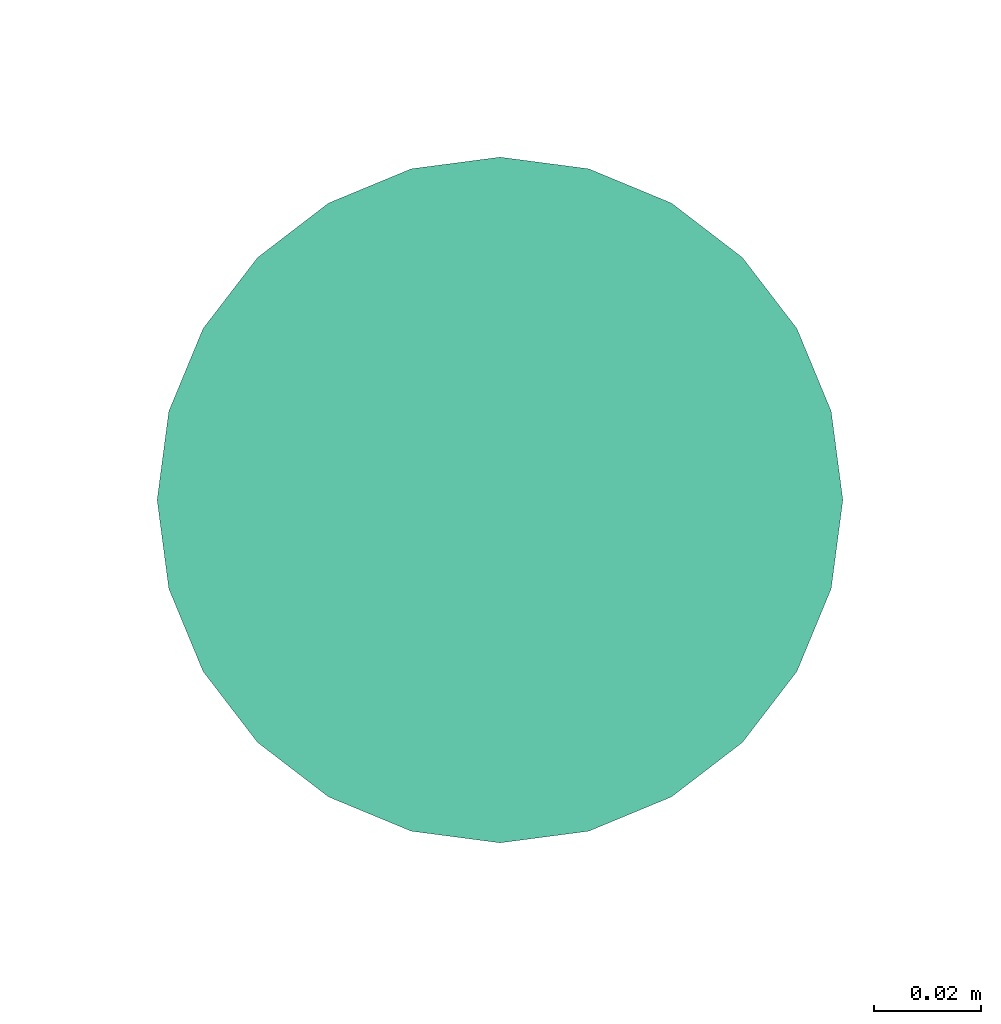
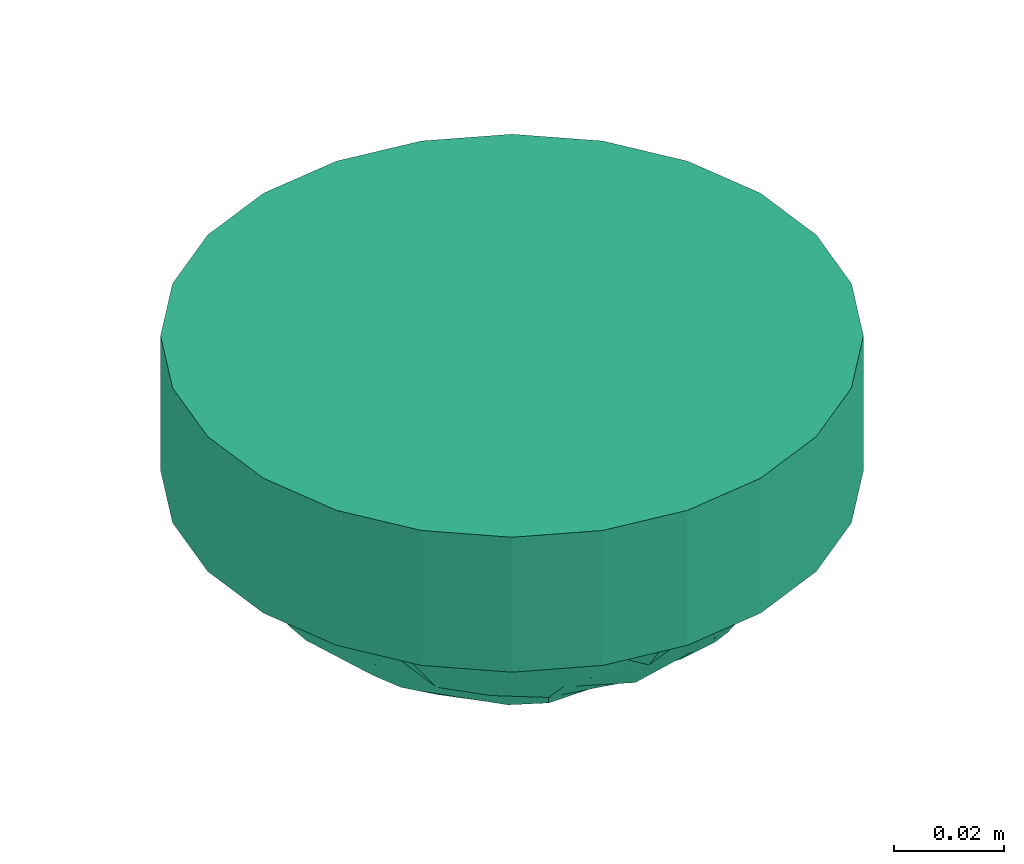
# One storey, part 150 of 153: 1 flow terminal.
"""IFC2X3 building model written with IfcOpenShell, lengths in metres."""

from ifc_helpers import new_model, entity, si_unit, converted_unit, derived_unit, direction, frame, origin, place, context, subcontext, project, spatial, faceted_brep, source, transform, mapped, type_object, type_shapes, element, save


model = new_model("IFC2X3")

# Units and contexts
model_context = context("Model", 3, precision=1e-05, world=origin(), true_north=direction((6.12303176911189e-17, 1.0)))
body_context = subcontext(model_context, "Body", "Model", "MODEL_VIEW")
ifc_project = project(units=[si_unit("LENGTHUNIT", "METRE"), si_unit("AREAUNIT", "SQUARE_METRE"), si_unit("VOLUMEUNIT", "CUBIC_METRE"), converted_unit("PLANEANGLEUNIT", "DEGREE", entity("IfcRatioMeasure", 0.0174532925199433), si_unit("PLANEANGLEUNIT", "RADIAN"), dimensions=[0, 0, 0, 0, 0, 0, 0]), si_unit("MASSUNIT", "GRAM", prefix="KILO"), derived_unit("MASSDENSITYUNIT", [(si_unit("MASSUNIT", "GRAM", prefix="KILO"), 1), (si_unit("LENGTHUNIT", "METRE"), -3)]), si_unit("TIMEUNIT", "SECOND"), si_unit("FREQUENCYUNIT", "HERTZ"), si_unit("THERMODYNAMICTEMPERATUREUNIT", "DEGREE_CELSIUS"), derived_unit("THERMALTRANSMITTANCEUNIT", [(si_unit("MASSUNIT", "GRAM", prefix="KILO"), 1), (si_unit("THERMODYNAMICTEMPERATUREUNIT", "KELVIN"), -1), (si_unit("TIMEUNIT", "SECOND"), -3)]), derived_unit("VOLUMETRICFLOWRATEUNIT", [(si_unit("LENGTHUNIT", "METRE"), 3), (si_unit("TIMEUNIT", "SECOND"), -1)]), si_unit("ELECTRICCURRENTUNIT", "AMPERE"), si_unit("ELECTRICVOLTAGEUNIT", "VOLT"), si_unit("POWERUNIT", "WATT"), si_unit("FORCEUNIT", "NEWTON"), si_unit("ILLUMINANCEUNIT", "LUX"), si_unit("LUMINOUSFLUXUNIT", "LUMEN"), si_unit("LUMINOUSINTENSITYUNIT", "CANDELA"), derived_unit("USERDEFINED", [(si_unit("MASSUNIT", "GRAM", prefix="KILO"), -1), (si_unit("LENGTHUNIT", "METRE"), -2), (si_unit("TIMEUNIT", "SECOND"), 3), (si_unit("LUMINOUSFLUXUNIT", "LUMEN"), 1)]), derived_unit("LINEARVELOCITYUNIT", [(si_unit("LENGTHUNIT", "METRE"), 1), (si_unit("TIMEUNIT", "SECOND"), -1)]), si_unit("PRESSUREUNIT", "PASCAL"), derived_unit("USERDEFINED", [(si_unit("LENGTHUNIT", "METRE"), -2), (si_unit("MASSUNIT", "GRAM", prefix="KILO"), 1), (si_unit("TIMEUNIT", "SECOND"), -2)])], contexts=[model_context])

# Site, building, storey
site_placement = place(None, origin())
site = spatial("IfcSite", under=ifc_project, at=site_placement, Name="Default", CompositionType="ELEMENT")
building_placement = place(site_placement, origin())
building = spatial("IfcBuilding", under=site, at=building_placement, CompositionType="ELEMENT")
storey_placement = place(building_placement, frame((0.0, 0.0, -4.62)))
storey = spatial("IfcBuildingStorey", under=building, at=storey_placement, Name="S02", CompositionType="ELEMENT", Elevation=-4.62)

# Flow terminal
light_fixture_type = type_object("IfcLightFixtureType", Name="Détecteur 360°", PredefinedType="NOTDEFINED")
shared_shape = source(origin(), body_context, "Body", "Brep", [
    faceted_brep([(-0.0175153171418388, 0.0435914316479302, 0.0478512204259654), (0.0, 0.034524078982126, 0.0563702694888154), (0.0, 0.0397165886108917, 0.0531256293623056), (0.0, -0.00603476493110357, 0.0659648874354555), (0.0, 0.0, 0.0669999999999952), (-0.0194029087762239, 0.000878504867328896, 0.0644483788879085), (-0.0269980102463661, 0.0195753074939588, 0.0584711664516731), (-0.0366619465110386, 0.0127227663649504, 0.0549213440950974), (-0.0174057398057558, 0.0159851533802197, 0.0630502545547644), (-0.0276843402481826, 0.0401006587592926, 0.0459804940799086), (-0.0359767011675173, 0.0348394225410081, 0.0444249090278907), (-0.0202403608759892, 0.0335607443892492, 0.054639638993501), (-0.0256912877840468, 0.0533485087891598, 0.0299999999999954), (-0.0172617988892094, 0.0486391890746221, 0.042533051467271), (-0.0133088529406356, 0.0517577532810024, 0.0400582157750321), (-0.0462941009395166, 0.0369183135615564, 0.0299999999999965), (-0.0186245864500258, 0.0267295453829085, 0.0589100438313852), (0.0, 0.0241390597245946, 0.0628595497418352), (-0.0139070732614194, 0.0374370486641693, 0.0540817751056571), (0.0, -0.0397165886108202, 0.0531256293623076), (-0.0172618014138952, -0.0486391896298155, 0.0425330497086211), (0.0, -0.0449090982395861, 0.049880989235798), (-0.0353547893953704, -0.0284533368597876, 0.0494330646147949), (-0.0202403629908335, -0.0335607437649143, 0.054639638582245), (-0.0186245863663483, -0.0267295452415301, 0.0589100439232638), (-0.0191783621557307, -0.0150189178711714, 0.0627751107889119), (-0.0249385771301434, -0.0204731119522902, 0.0590841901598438), (0.0, -0.0120695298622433, 0.0649297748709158), (-0.0453471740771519, 0.0286501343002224, 0.0397747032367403), (-0.052010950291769, 0.0250471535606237, 0.029999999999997), (-0.0465404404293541, 0.0196510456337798, 0.0438984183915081), (-0.0365036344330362, 0.0226255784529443, 0.0516441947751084), (-0.0276843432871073, -0.0401006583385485, 0.0459804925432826), (-0.0359926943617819, -0.0451334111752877, 0.0299999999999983), (-0.0175153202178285, -0.0435914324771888, 0.0478512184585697), (0.0, 0.049890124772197, 0.0429575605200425), (0.0, 0.0545512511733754, 0.0364787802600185), (0.0, 0.0592123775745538, 0.0299999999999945), (-0.00849704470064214, 0.0572729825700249, 0.0299999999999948), (-0.0169940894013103, 0.055333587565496, 0.0299999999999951), (-0.035976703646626, -0.0348394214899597, 0.0444249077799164), (-0.0308419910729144, -0.0492409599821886, 0.0299999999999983), (-0.025691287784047, -0.0533485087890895, 0.0299999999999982), (-0.0130265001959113, -0.0514867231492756, 0.040526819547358), (0.0, -0.0498901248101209, 0.0429575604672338), (-0.0169940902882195, -0.0553335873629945, 0.029999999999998), (-0.0353547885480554, 0.0284533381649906, 0.0494330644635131), (0.0, -0.0181042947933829, 0.0638946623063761), (-0.036659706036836, 0.00328672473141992, 0.0563153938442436), (-0.0485435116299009, 0.009089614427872, 0.0452357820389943), (-0.0473669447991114, 0.00128092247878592, 0.0474310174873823), (0.0, 0.00603476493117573, 0.0659648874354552), (-0.0226425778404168, 0.0107553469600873, 0.0624973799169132), (-0.0139070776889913, -0.0374370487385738, 0.0540817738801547), (0.0, -0.0293315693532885, 0.0596149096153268), (-0.0453471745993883, -0.0286501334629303, 0.0397747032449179), (-0.0449600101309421, -0.018422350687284, 0.0461366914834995), (-0.0577277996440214, -0.0131759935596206, 0.0299999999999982), (-0.0476906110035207, -0.00670602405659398, 0.0466053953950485), (0.0, 0.0449090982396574, 0.0498809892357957), (-0.0308419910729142, 0.049240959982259, 0.0299999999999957), (-0.0359926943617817, 0.0451334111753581, 0.029999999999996), (0.0, -0.0345240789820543, 0.0563702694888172), (-0.0462941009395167, -0.0369183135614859, 0.0299999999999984), (-0.0411433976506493, -0.0410258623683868, 0.0299999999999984), (-0.0491525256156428, 0.03098273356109, 0.0299999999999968), (-0.0577277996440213, 0.0131759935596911, 0.0299999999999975), (0.0, 0.018104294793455, 0.0638946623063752), (-0.0377433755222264, -0.00448382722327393, 0.0554913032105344), (-0.0577277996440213, 0.00658799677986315, 0.0299999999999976), (-0.0577277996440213, -0.00658799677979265, 0.029999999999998), (-0.0577277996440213, 0.0, 0.0299999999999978), (-0.0385149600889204, -0.012484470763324, 0.0536578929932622), (-0.0491525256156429, -0.0309827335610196, 0.0299999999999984), (-0.0548693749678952, -0.0191115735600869, 0.0299999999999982), (0.0, -0.0241390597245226, 0.0628595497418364), (-0.0146256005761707, -0.0100436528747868, 0.0649170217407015), (-0.0271766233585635, -0.00920278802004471, 0.0609170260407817), (0.0, 0.0120695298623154, 0.0649297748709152), (-0.0520109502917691, -0.0250471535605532, 0.0299999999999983), (-0.0411433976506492, 0.0410258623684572, 0.0299999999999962), (-0.0548693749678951, 0.0191115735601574, 0.0299999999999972), (0.0, 0.0293315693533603, 0.0596149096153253), (-0.0127455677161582, -0.0563032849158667, 0.0299999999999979), (-0.00849704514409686, -0.057272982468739, 0.0299999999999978), (0.0, -0.0592123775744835, 0.0299999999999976), (0.0, -0.0545512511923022, 0.0364787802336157), (-0.0213426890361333, -0.054341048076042, 0.0299999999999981), (0.0175153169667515, -0.0435914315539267, 0.0478512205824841), (0.0194029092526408, -0.000878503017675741, 0.0644483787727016), (0.0269980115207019, -0.0195753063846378, 0.0584711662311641), (0.0366619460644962, -0.012722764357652, 0.0549213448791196), (0.0174057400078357, -0.0159851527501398, 0.0630502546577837), (0.0276843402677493, -0.0401006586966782, 0.0459804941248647), (0.0359767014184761, -0.0348394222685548, 0.0444249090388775), (0.0202403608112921, -0.0335607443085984, 0.0546396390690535), (0.0256912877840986, -0.0533485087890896, 0.0299999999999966), (0.0172617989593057, -0.0486391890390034, 0.0425330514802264), (0.0133088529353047, -0.0517577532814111, 0.0400582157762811), (0.0462941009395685, -0.0369183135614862, 0.0299999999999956), (0.00849704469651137, -0.0572729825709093, 0.0299999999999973), (0.0169940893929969, -0.0553335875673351, 0.029999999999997), (0.0308419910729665, 0.0492409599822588, 0.0299999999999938), (0.025691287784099, 0.0533485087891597, 0.0299999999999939), (0.0172617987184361, 0.0486391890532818, 0.0425330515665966), (0.0175153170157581, 0.0435914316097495, 0.0478512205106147), (0.0353547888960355, 0.0284533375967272, 0.0494330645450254), (0.0202403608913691, 0.03356074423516, 0.0546396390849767), (0.0186245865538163, 0.0267295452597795, 0.0589100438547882), (0.0191783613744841, 0.0150189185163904, 0.0627751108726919), (0.0249385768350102, 0.0204731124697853, 0.0590841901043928), (0.0520109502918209, -0.0250471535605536, 0.0299999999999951), (0.0548693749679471, -0.0191115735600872, 0.0299999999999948), (0.0577277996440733, -0.0131759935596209, 0.0299999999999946), (0.0465404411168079, -0.0196510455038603, 0.0438984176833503), (0.018624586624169, -0.0267295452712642, 0.0589100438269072), (0.0365036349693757, -0.0226255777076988, 0.0516441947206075), (0.0276843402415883, 0.0401006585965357, 0.0459804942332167), (0.0359926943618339, 0.0451334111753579, 0.0299999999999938), (0.0139070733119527, -0.0374370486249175, 0.0540817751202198), (0.0359767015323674, 0.0348394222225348, 0.044424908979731), (0.0226425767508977, -0.0107553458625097, 0.0624973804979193), (0.0130264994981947, 0.0514867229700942, 0.0405268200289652), (0.0169940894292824, 0.0553335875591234, 0.0299999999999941), (0.0353547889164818, -0.0284533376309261, 0.0494330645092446), (0.0453471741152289, -0.0286501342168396, 0.039774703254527), (0.0366597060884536, -0.00328672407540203, 0.0563153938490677), (0.0485435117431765, -0.00908961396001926, 0.0452357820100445), (0.0473669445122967, -0.00128092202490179, 0.0474310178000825), (0.0139070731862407, 0.0374370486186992, 0.0540817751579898), (0.0453471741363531, 0.0286501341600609, 0.039774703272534), (0.0449600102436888, 0.018422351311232, 0.0461366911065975), (0.0577277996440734, 0.0131759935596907, 0.0299999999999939), (0.0476906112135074, 0.00670602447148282, 0.0466053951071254), (0.0308419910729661, -0.0492409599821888, 0.0299999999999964), (0.0359926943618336, -0.0451334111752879, 0.0299999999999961), (0.0462941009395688, 0.0369183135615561, 0.0299999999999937), (0.0411433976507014, 0.041025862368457, 0.0299999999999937), (0.0491525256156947, -0.0309827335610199, 0.0299999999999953), (0.0377433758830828, 0.00448382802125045, 0.0554913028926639), (0.0577277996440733, -0.00658799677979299, 0.0299999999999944), (0.0577277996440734, 0.00658799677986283, 0.0299999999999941), (0.0577277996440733, 0.0, 0.0299999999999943), (0.0385149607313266, 0.0124844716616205, 0.0536578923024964), (0.049152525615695, 0.0309827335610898, 0.0299999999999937), (0.0548693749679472, 0.0191115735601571, 0.0299999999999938), (0.0146256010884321, 0.0100436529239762, 0.0649170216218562), (0.0271766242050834, 0.00920278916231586, 0.0609170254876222), (0.0520109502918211, 0.0250471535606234, 0.0299999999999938), (0.041143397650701, -0.0410258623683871, 0.0299999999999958), (0.0127455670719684, 0.056303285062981, 0.0299999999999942), (0.0084970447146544, 0.0572729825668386, 0.0299999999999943), (0.0213426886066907, 0.0543410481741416, 0.029999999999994), (0.0, 0.0, 0.0299999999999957)], [[[0, 1, 2]], [[3, 4, 5]], [[6, 7, 8]], [[9, 10, 11]], [[12, 13, 14]], [[9, 15, 10]], [[16, 17, 11]], [[9, 11, 18]], [[19, 20, 21]], [[22, 23, 24]], [[25, 26, 27]], [[28, 29, 30]], [[16, 31, 6]], [[32, 33, 34]], [[35, 36, 37, 38, 39]], [[22, 40, 23]], [[41, 42, 20]], [[20, 43, 21]], [[44, 43, 45]], [[19, 34, 20]], [[46, 10, 28]], [[47, 26, 24]], [[48, 49, 50]], [[51, 52, 5]], [[23, 53, 54]], [[55, 22, 56]], [[57, 56, 58]], [[2, 59, 13]], [[0, 2, 13]], [[13, 60, 0]], [[1, 0, 18]], [[61, 9, 0]], [[19, 62, 34]], [[33, 41, 34]], [[63, 64, 33, 32]], [[34, 41, 20]], [[32, 34, 53]], [[31, 28, 30]], [[15, 65, 10]], [[30, 66, 49]], [[67, 16, 6]], [[52, 8, 7]], [[7, 31, 30]], [[68, 50, 58]], [[48, 50, 68]], [[49, 69, 50]], [[70, 57, 58, 71]], [[52, 48, 5]], [[22, 26, 56]], [[68, 58, 72]], [[72, 56, 26]], [[73, 40, 55]], [[56, 74, 55]], [[24, 75, 47]], [[5, 4, 51]], [[49, 48, 7]], [[5, 76, 3]], [[77, 5, 68]], [[51, 78, 52]], [[47, 27, 26]], [[25, 27, 76]], [[75, 24, 23]], [[22, 24, 26]], [[53, 62, 54]], [[40, 32, 23]], [[32, 40, 63]], [[73, 63, 40]], [[79, 73, 55, 74]], [[26, 25, 72]], [[22, 55, 40]], [[54, 75, 23]], [[17, 16, 67]], [[67, 8, 78]], [[11, 10, 46]], [[16, 11, 46]], [[52, 7, 48]], [[65, 29, 28]], [[9, 61, 80, 15]], [[81, 66, 30, 29]], [[65, 28, 10]], [[31, 46, 28]], [[1, 18, 82]], [[11, 17, 82]], [[49, 7, 30]], [[35, 39, 14]], [[14, 13, 59]], [[83, 84, 85, 86, 44, 45]], [[20, 42, 43]], [[43, 42, 87, 45]], [[62, 53, 34]], [[32, 53, 23]], [[82, 18, 11]], [[9, 18, 0]], [[12, 14, 39]], [[14, 59, 35]], [[61, 0, 60]], [[13, 12, 60]], [[46, 31, 16]], [[6, 31, 7]], [[69, 71, 50]], [[49, 66, 69]], [[58, 50, 71]], [[48, 68, 5]], [[77, 68, 72]], [[25, 77, 72]], [[72, 58, 56]], [[56, 57, 74]], [[77, 25, 76]], [[77, 76, 5]], [[3, 76, 27]], [[6, 8, 67]], [[8, 52, 78]], [[21, 43, 44]], [[88, 62, 19]], [[51, 4, 89]], [[90, 91, 92]], [[93, 94, 95]], [[96, 97, 98]], [[93, 99, 94]], [[44, 86, 85, 100, 101]], [[102, 103, 104]], [[2, 105, 104]], [[106, 107, 108]], [[109, 110, 78]], [[111, 112, 113, 114]], [[115, 116, 90]], [[117, 118, 105]], [[93, 95, 119]], [[106, 120, 107]], [[3, 121, 89]], [[35, 122, 123]], [[104, 122, 59]], [[115, 75, 95]], [[124, 94, 125]], [[67, 110, 108]], [[126, 127, 128]], [[2, 104, 59]], [[107, 129, 82]], [[130, 106, 131]], [[132, 131, 133]], [[19, 21, 97]], [[88, 19, 97]], [[97, 134, 88]], [[62, 88, 119]], [[135, 93, 88]], [[2, 1, 105]], [[118, 102, 105]], [[136, 137, 118, 117]], [[105, 102, 104]], [[117, 105, 129]], [[116, 125, 114]], [[99, 138, 94]], [[114, 113, 127]], [[47, 115, 90]], [[27, 92, 121]], [[91, 116, 114]], [[139, 128, 133]], [[126, 128, 139]], [[127, 140, 128]], [[141, 132, 133, 142]], [[121, 126, 89]], [[106, 110, 131]], [[139, 133, 143]], [[143, 131, 110]], [[144, 120, 130]], [[131, 145, 130]], [[108, 17, 67]], [[89, 4, 3]], [[127, 126, 91]], [[89, 146, 51]], [[147, 89, 139]], [[3, 27, 121]], [[67, 78, 110]], [[109, 78, 146]], [[17, 108, 107]], [[106, 108, 110]], [[129, 1, 82]], [[120, 117, 107]], [[117, 120, 136]], [[144, 136, 120]], [[148, 144, 130, 145]], [[110, 109, 143]], [[106, 130, 120]], [[82, 17, 107]], [[75, 115, 47]], [[47, 92, 27]], [[95, 94, 124]], [[115, 95, 124]], [[121, 91, 126]], [[138, 111, 125]], [[93, 135, 149, 99]], [[125, 111, 114]], [[138, 125, 94]], [[116, 124, 125]], [[62, 119, 54]], [[95, 75, 54]], [[127, 91, 114]], [[44, 101, 98]], [[98, 97, 21]], [[150, 151, 37, 36, 35, 123]], [[104, 103, 122]], [[122, 103, 152, 123]], [[1, 129, 105]], [[117, 129, 107]], [[54, 119, 95]], [[93, 119, 88]], [[96, 98, 101]], [[98, 21, 44]], [[135, 88, 134]], [[97, 96, 134]], [[124, 116, 115]], [[90, 116, 91]], [[140, 142, 128]], [[127, 113, 140]], [[133, 128, 142]], [[126, 139, 89]], [[147, 139, 143]], [[109, 147, 143]], [[143, 133, 131]], [[131, 132, 145]], [[147, 109, 146]], [[147, 146, 89]], [[51, 146, 78]], [[121, 92, 91]], [[90, 92, 47]], [[59, 122, 35]], [[153, 42, 41]], [[153, 41, 33]], [[153, 33, 64]], [[153, 64, 63]], [[153, 63, 73]], [[153, 73, 79]], [[153, 79, 74]], [[153, 74, 57]], [[153, 57, 70]], [[153, 87, 42]], [[153, 45, 87]], [[153, 83, 45]], [[153, 84, 83]], [[153, 85, 84]], [[153, 70, 71]], [[153, 71, 69]], [[153, 69, 66]], [[153, 66, 81]], [[153, 81, 29]], [[153, 29, 65]], [[153, 65, 15]], [[153, 15, 80]], [[153, 80, 61]], [[153, 61, 60]], [[153, 60, 12]], [[153, 12, 39]], [[153, 39, 38]], [[153, 38, 37]], [[153, 37, 151]], [[153, 100, 85]], [[153, 101, 100]], [[153, 96, 101]], [[153, 134, 96]], [[153, 135, 134]], [[153, 149, 135]], [[153, 99, 149]], [[153, 138, 99]], [[153, 111, 138]], [[153, 112, 111]], [[153, 113, 112]], [[153, 151, 150]], [[153, 150, 123]], [[153, 123, 152]], [[153, 152, 103]], [[153, 103, 102]], [[153, 102, 118]], [[153, 118, 137]], [[153, 137, 136]], [[153, 136, 144]], [[153, 144, 148]], [[153, 148, 145]], [[153, 145, 132]], [[153, 132, 141]], [[153, 141, 142]], [[153, 142, 140]], [[153, 140, 113]]]),
    faceted_brep([(0.0452548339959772, 0.0452548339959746, 0.0299999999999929), (0.0320000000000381, 0.0554256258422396, 0.0299999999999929), (0.0165644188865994, 0.0618192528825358, 0.029999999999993), (0.0, 0.0640000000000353, 0.0299999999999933), (-0.0165644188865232, 0.0618192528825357, 0.0299999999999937), (-0.0319999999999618, 0.0554256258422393, 0.0299999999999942), (-0.0452548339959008, 0.0452548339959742, 0.0299999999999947), (-0.0554256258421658, 0.0320000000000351, 0.0299999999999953), (-0.061819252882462, 0.0165644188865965, 0.0299999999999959), (-0.0639999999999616, 0.0, 0.0299999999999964), (-0.0618192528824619, -0.0165644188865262, 0.0299999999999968), (-0.0554256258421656, -0.0319999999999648, 0.0299999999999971), (-0.0452548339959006, -0.0452548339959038, 0.0299999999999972), (-0.0319999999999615, -0.0554256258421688, 0.0299999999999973), (-0.0165644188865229, -0.061819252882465, 0.0299999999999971), (0.0, -0.0639999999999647, 0.0299999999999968), (0.0165644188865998, -0.061819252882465, 0.0299999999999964), (0.0320000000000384, -0.0554256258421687, 0.0299999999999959), (0.0452548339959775, -0.0452548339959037, 0.0299999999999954), (0.0554256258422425, -0.0319999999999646, 0.0299999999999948), (0.0618192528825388, -0.016564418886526, 0.0299999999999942), (0.0640000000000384, 0.0, 0.0299999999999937), (0.0618192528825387, 0.016564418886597, 0.0299999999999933), (0.0554256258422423, 0.0320000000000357, 0.029999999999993), (0.0, -0.0639999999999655, 0.0), (-0.0165644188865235, -0.0618192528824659, 0.0), (-0.0319999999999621, -0.0554256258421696, 0.0), (-0.0452548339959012, -0.0452548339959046, 0.0), (-0.0554256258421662, -0.0319999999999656, 0.0), (-0.0618192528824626, -0.016564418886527, 0.0), (-0.0639999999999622, 0.0, 0.0), (-0.0618192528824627, 0.0165644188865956, 0.0), (-0.0554256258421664, 0.0320000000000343, 0.0), (-0.0452548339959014, 0.0452548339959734, 0.0), (-0.0319999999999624, 0.0554256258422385, 0.0), (-0.0165644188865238, 0.0618192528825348, 0.0), (0.0, 0.0640000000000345, 0.0), (0.0165644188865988, 0.061819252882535, 0.0), (0.0320000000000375, 0.0554256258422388, 0.0), (0.0452548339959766, 0.0452548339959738, 0.0), (0.0554256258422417, 0.0320000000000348, 0.0), (0.061819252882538, 0.0165644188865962, 0.0), (0.0640000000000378, 0.0, 0.0), (0.0618192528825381, -0.0165644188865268, 0.0), (0.0554256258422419, -0.0319999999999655, 0.0), (0.0452548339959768, -0.0452548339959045, 0.0), (0.0320000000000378, -0.0554256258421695, 0.0), (0.0165644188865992, -0.0618192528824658, 0.0)], [[[0, 1, 2, 3, 4, 5, 6, 7, 8, 9, 10, 11, 12, 13, 14, 15, 16, 17, 18, 19, 20, 21, 22, 23]], [[24, 25, 26, 27, 28, 29, 30, 31, 32, 33, 34, 35, 36, 37, 38, 39, 40, 41, 42, 43, 44, 45, 46, 47]], [[30, 9, 8, 31]], [[31, 8, 7, 32]], [[34, 33, 6, 5]], [[6, 33, 32, 7]], [[35, 34, 5, 4]], [[35, 4, 3, 36]], [[36, 3, 2, 37]], [[37, 2, 1, 38]], [[40, 39, 0, 23]], [[0, 39, 38, 1]], [[41, 40, 23, 22]], [[41, 22, 21, 42]], [[42, 21, 20, 43]], [[43, 20, 19, 44]], [[46, 45, 18, 17]], [[18, 45, 44, 19]], [[47, 46, 17, 16]], [[47, 16, 15, 24]], [[24, 15, 14, 25]], [[25, 14, 13, 26]], [[10, 9, 30, 29]], [[26, 13, 12, 27]], [[12, 11, 28, 27]], [[11, 10, 29, 28]]]),
])
type_shapes(light_fixture_type, [shared_shape])
flow_terminal_placement = place(building_placement, frame((63.4258182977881, -188.336859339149, 6.93), z_axis=(0.0, 0.0, -1.0), x_axis=(-1.0, 0.0, 0.0)))
element("IfcFlowTerminal", 1, at=flow_terminal_placement, inside=storey, type_object=light_fixture_type, Name="INT - Détecteur Luminosite:Détecteur 360°", ObjectType="INT - Détecteur Luminosite:Détecteur 360°", context=body_context, shape_type="MappedRepresentation", body=[
    mapped(shared_shape, transform((0.0, 0.0, 0.0), scale=1.0)),
])

save(model, "model.ifc")
